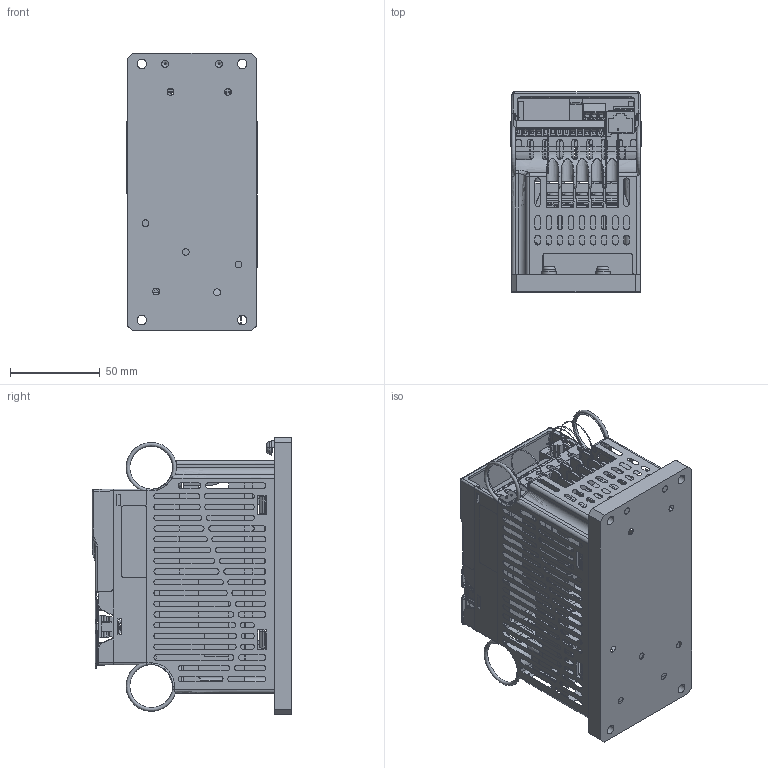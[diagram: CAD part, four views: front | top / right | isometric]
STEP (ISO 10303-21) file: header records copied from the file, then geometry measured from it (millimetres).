
FILE_DESCRIPTION((''),'2;1');
FILE_NAME('VFD-E-A2-PD-3D00','2009-11-11T',('KADY.CHANG'),(''),'PRO/ENGINEER BY PARAMETRIC TECHNOLOGY CORPORATION, 2007390','PRO/ENGINEER BY PARAMETRIC TECHNOLOGY CORPORATION, 2007390','');
FILE_SCHEMA(('CONFIG_CONTROL_DESIGN'));
Products named in the file (1): VFD-E-A2-PD-3D00
Bounding box: 72.6 x 111.5 x 155 mm (x, y, z)
Surface area: 109467.9 mm2 (no closed solid volume)
Topology: 0 solids, 0 shells, 1036 faces, 9059 edges, 9023 vertices
Faces by surface type: bspline 998, torus 32, sphere 6
Entity records: 156469 total; most frequent: CARTESIAN_POINT 64164, DIRECTION 16009, TRIMMED_CURVE 14380, VECTOR 12827, LINE 12827, DEFINITIONAL_REPRESENTATION 8985, PCURVE 8985, COMPOSITE_CURVE_SEGMENT 8985
